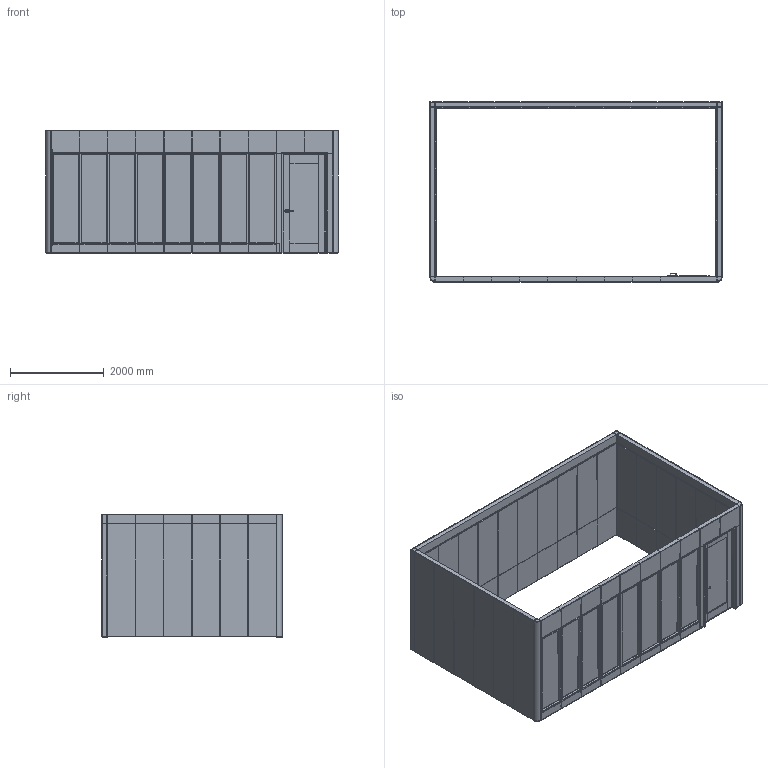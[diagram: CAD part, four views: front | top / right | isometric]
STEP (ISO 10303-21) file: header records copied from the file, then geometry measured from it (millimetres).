
FILE_DESCRIPTION(/* description */ (''),/* implementation_level */ '2;1');
FILE_NAME(/* name */ 'Share Three',/* time_stamp */ '2026-06-15T16:42:18+12:00',/* author */ (''),/* organization */ (''),/* preprocessor_version */ 'ST-DEVELOPER v19.2',/* originating_system */ 'Rhino 8.31',/* authorisation */ '');
FILE_SCHEMA (('CONFIG_CONTROL_DESIGN'));
Length unit declared in the file: millimetre
Products named in the file (12): Document; 600x1656mm Internal Linings - Autex; 600x740mm Internal Linings - Autex; 600x740mm Internal Linings Short - Autex; 600x1656mm Internal Linings Short - Autex; 600x2400mm Internal Linings - MDF; DoorPanel_1200_2600_92_150_2150; 600x2600mm External Lining; 92x2600mm External Corner Lining; 18mm Packer; 600x2600mm External Door Lining; 600x2600mm Internal Door Lining
Bounding box: 6252 x 3854 x 2618 mm (x, y, z)
Volume: 2368109550.2 mm3; surface area: 312218087.1 mm2
Topology: 226 solids, 229 shells, 1573 faces, 3373 edges, 2259 vertices
Faces by surface type: plane 1543, cylinder 22, bspline 8
Entity records: 32370 total; most frequent: CARTESIAN_POINT 9129, ORIENTED_EDGE 5628, EDGE_CURVE 2830, B_SPLINE_CURVE_WITH_KNOTS 2703, VERTEX_POINT 1896, DIRECTION 1597, AXIS2_PLACEMENT_3D 1446, EDGE_LOOP 1311
